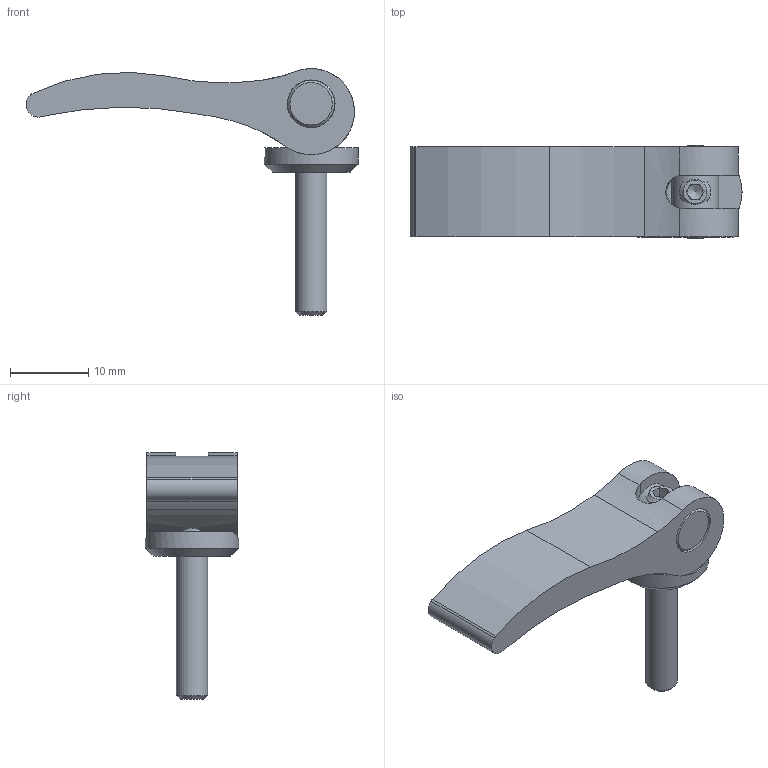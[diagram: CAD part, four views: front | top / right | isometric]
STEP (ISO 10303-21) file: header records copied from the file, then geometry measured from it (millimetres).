
FILE_DESCRIPTION(('STEP AP203'), '1');
FILE_NAME('À00360.11420410', '', ('UNSPECIFIED'), ('UNSPECIFIED'), 'C3D Converter', 'C3D Toolkit', '');
FILE_SCHEMA(('CONFIG_CONTROL_DESIGN'));
Length unit declared in the file: millimetre
Products named in the file (5): А00360.42.03; А00360.42.02; А00360.42.01
Assembly tree (4 placements, depth 2):
  (unnamed)
    А00360.42.03
    А00360.42.02
    А00360.42.01
    (unnamed)
Bounding box: 42.36 x 11.94 x 31.5 mm (x, y, z)
Volume: 3034 mm3; surface area: 2698.8 mm2
Topology: 4 solids, 4 shells, 49 faces, 125 edges, 82 vertices
Faces by surface type: plane 23, cylinder 20, cone 6
Full cylindrical faces by diameter (mm): 3.242 x1, 4 x1, 4.5 x1, 6 x1, 6.1 x2, 11.94 x1
Entity records: 2571 total; most frequent: CARTESIAN_POINT 899, DIRECTION 258, ORIENTED_EDGE 222, EDGE_CURVE 111, AXIS2_PLACEMENT_3D 108, VERTEX_POINT 81, EDGE_LOOP 68, FACE_BOUND 57
